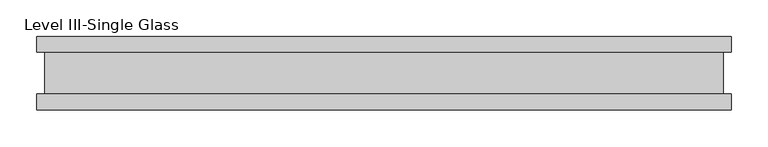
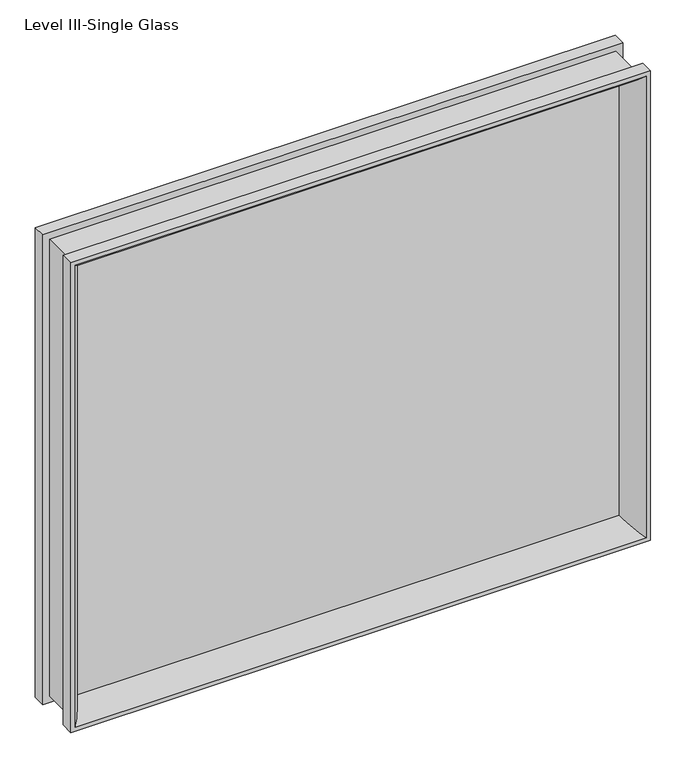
"""IFC4 building model written with IfcOpenShell, lengths in millimetres: proxy geometry, Panel-Fascia-Teknion-Altos-Single_Glass : Level III-Single Glass."""

from ifc_helpers import new_model, si_unit, frame, origin, place, context, project, spatial, polyline, ellipse_curve, outline, extrude, source, transform, mapped, element, save
from ifc_brep_helpers import plane_surface, cylinder_surface, advanced_brep


def level_iii_single_glass_caffbde7(model_context):
    return source(origin(), model_context, "Body", "SolidModel", [
        advanced_brep(
        [(447.4829676, -5.0827449, 787.2123332), (447.4829676, -5.0827449, 28.1276668), (465.4378179, -50.0558594, 10.1728164), (465.4378179, -50.0558594, 805.1671836), (457.9731586, 5.0827449, 797.7025243), (457.9731586, 5.0827449, 17.6374757), (457.9731586, -5.0827449, 17.6374757), (457.9731586, -5.0827449, 797.7025243), (465.4378179, 50.0558594, 805.1671836), (465.4378179, 50.0558594, 10.1728164), (447.4829676, 5.0827449, 28.1276668), (447.4829676, 5.0827449, 787.2123332), (472.4356344, 28.8801202, 812.165), (472.4356344, 28.8801202, 3.175), (472.4356344, 50.0558594, 3.175), (472.4356344, 50.0558594, 812.165), (461.6106344, -28.2698798, 801.3400001), (461.6106344, -28.2698798, 13.9999999), (461.6106344, 28.8801202, 13.9999999), (461.6106344, 28.8801202, 801.3400001), (472.4356344, -50.0558594, 812.165), (472.4356344, -50.0558594, 3.175), (472.4356344, -28.2698798, 3.175), (472.4356344, -28.2698798, 812.165), (-447.4829676, -5.0827449, 28.1276668), (-465.4378179, -50.0558594, 10.1728164), (-457.9731586, 5.0827449, 17.6374757), (-457.9731586, -5.0827449, 17.6374757), (-465.4378179, 50.0558594, 10.1728164), (-447.4829676, 5.0827449, 28.1276668), (-472.4356344, 28.8801202, 3.175), (-472.4356344, 50.0558594, 3.175), (-461.6106344, -28.2698798, 13.9999999), (-461.6106344, 28.8801202, 13.9999999), (-472.4356344, -50.0558594, 3.175), (-472.4356344, -28.2698798, 3.175), (-447.4829676, -5.0827449, 787.2123332), (-465.4378179, -50.0558594, 805.1671836), (-457.9731586, 5.0827449, 797.7025243), (-457.9731586, -5.0827449, 797.7025243), (-465.4378179, 50.0558594, 805.1671836), (-447.4829676, 5.0827449, 787.2123332), (-472.4356344, 28.8801202, 812.165), (-472.4356344, 50.0558594, 812.165), (-461.6106344, -28.2698798, 801.3400001), (-461.6106344, 28.8801202, 801.3400001), (-472.4356344, -50.0558594, 812.165), (-472.4356344, -28.2698798, 812.165)],
        [
            (0, 1),
            (1, 2, ellipse_curve(frame((499.5692049, -10.3587469, -23.9585705), z_axis=(0.7071067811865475, 0.0, 0.7071067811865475), x_axis=(-0.7071067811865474, 0.0, 0.7071067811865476)), 74.0379946, 52.352768)),
            (2, 3),
            (3, 0, ellipse_curve(frame((499.5692049, -10.3587469, 839.2985705), z_axis=(0.7071067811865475, 0.0, -0.7071067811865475), x_axis=(0.7071067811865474, 0.0, 0.7071067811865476)), 74.0379946, 52.352768)),
            (4, 5),
            (5, 6),
            (6, 7),
            (7, 4),
            (8, 9),
            (9, 10, ellipse_curve(frame((499.5692049, 10.3587469, -23.9585705), z_axis=(0.7071067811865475, 0.0, 0.7071067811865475), x_axis=(-0.7071067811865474, 0.0, 0.7071067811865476)), 74.0379946, 52.352768)),
            (10, 11),
            (11, 8, ellipse_curve(frame((499.5692049, 10.3587469, 839.2985705), z_axis=(0.7071067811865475, 0.0, -0.7071067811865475), x_axis=(0.7071067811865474, 0.0, 0.7071067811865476)), 74.0379946, 52.352768)),
            (12, 13),
            (13, 14),
            (14, 15),
            (15, 12),
            (16, 17),
            (17, 18),
            (18, 19),
            (19, 16),
            (20, 21),
            (21, 22),
            (22, 23),
            (23, 20),
            (1, 24),
            (24, 25, ellipse_curve(frame((-499.5692049, -10.3587469, -23.9585705), z_axis=(0.7071067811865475, 0.0, -0.7071067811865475), x_axis=(0.7071067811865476, 0.0, 0.7071067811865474)), 74.0379946, 52.352768)),
            (25, 2),
            (5, 26),
            (26, 27),
            (27, 6),
            (9, 28),
            (28, 29, ellipse_curve(frame((-499.5692049, 10.3587469, -23.9585705), z_axis=(0.7071067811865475, 0.0, -0.7071067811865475), x_axis=(0.7071067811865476, 0.0, 0.7071067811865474)), 74.0379946, 52.352768)),
            (29, 10),
            (13, 30),
            (30, 31),
            (31, 14),
            (17, 32),
            (32, 33),
            (33, 18),
            (21, 34),
            (34, 35),
            (35, 22),
            (24, 36),
            (36, 37, ellipse_curve(frame((-499.5692049, -10.3587469, 839.2985705), z_axis=(-0.7071067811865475, 0.0, -0.7071067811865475), x_axis=(0.7071067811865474, 0.0, -0.7071067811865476)), 74.0379946, 52.352768)),
            (37, 25),
            (26, 38),
            (38, 39),
            (39, 27),
            (28, 40),
            (40, 41, ellipse_curve(frame((-499.5692049, 10.3587469, 839.2985705), z_axis=(-0.7071067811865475, 0.0, -0.7071067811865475), x_axis=(0.7071067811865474, 0.0, -0.7071067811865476)), 74.0379946, 52.352768)),
            (41, 29),
            (30, 42),
            (42, 43),
            (43, 31),
            (32, 44),
            (44, 45),
            (45, 33),
            (34, 46),
            (46, 47),
            (47, 35),
            (20, 46),
            (37, 3),
            (36, 0),
            (39, 7),
            (38, 4),
            (41, 11),
            (40, 8),
            (43, 15),
            (42, 12),
            (45, 19),
            (44, 16),
            (47, 23),
        ],
        [
            cylinder_surface(frame((499.5692049, -10.3587469, 812.165), z_axis=(0.0, 0.0, 1.0), x_axis=(1.0, 0.0, 0.0)), 52.352768),
            plane_surface(frame((457.9731586, -5.0827449, 797.7025243), z_axis=(-1.0, 0.0, 0.0), x_axis=(0.0, 0.0, -1.0))),
            cylinder_surface(frame((499.5692049, 10.3587469, 812.165), z_axis=(0.0, 0.0, 1.0), x_axis=(1.0, 0.0, 0.0)), 52.352768),
            plane_surface(frame((472.4356344, 50.0558594, 812.165), z_axis=(1.0, 0.0, 0.0), x_axis=(0.0, 0.0, -1.0))),
            plane_surface(frame((461.6106344, 28.8801202, 801.3400001), z_axis=(1.0, 0.0, 0.0), x_axis=(0.0, 0.0, -1.0))),
            plane_surface(frame((472.4356344, -28.2698798, 812.165), z_axis=(1.0, 0.0, 0.0), x_axis=(0.0, 0.0, -1.0))),
            cylinder_surface(frame((472.4356344, -10.3587469, -23.9585705), z_axis=(1.0, 0.0, 0.0), x_axis=(0.0, 0.0, -1.0)), 52.352768),
            plane_surface(frame((457.9731586, -5.0827449, 17.6374757), z_axis=(0.0, 0.0, 1.0), x_axis=(-1.0, 0.0, 0.0))),
            cylinder_surface(frame((472.4356344, 10.3587469, -23.9585705), z_axis=(1.0, 0.0, 0.0), x_axis=(0.0, 0.0, -1.0)), 52.352768),
            plane_surface(frame((472.4356344, 50.0558594, 3.175), z_axis=(0.0, 0.0, -1.0), x_axis=(-1.0, 0.0, 0.0))),
            plane_surface(frame((461.6106344, 28.8801202, 13.9999999), z_axis=(0.0, 0.0, -1.0), x_axis=(-1.0, 0.0, 0.0))),
            plane_surface(frame((472.4356344, -28.2698798, 3.175), z_axis=(0.0, 0.0, -1.0), x_axis=(-1.0, 0.0, 0.0))),
            cylinder_surface(frame((-499.5692049, -10.3587469, 3.175), z_axis=(0.0, 0.0, -1.0), x_axis=(-1.0, 0.0, 0.0)), 52.352768),
            plane_surface(frame((-457.9731586, -5.0827449, 17.6374757), z_axis=(1.0, 0.0, 0.0), x_axis=(0.0, 0.0, 1.0))),
            cylinder_surface(frame((-499.5692049, 10.3587469, 3.175), z_axis=(0.0, 0.0, -1.0), x_axis=(-1.0, 0.0, 0.0)), 52.352768),
            plane_surface(frame((-472.4356344, 50.0558594, 3.175), z_axis=(-1.0, 0.0, 0.0), x_axis=(0.0, 0.0, 1.0))),
            plane_surface(frame((-461.6106344, 28.8801202, 13.9999999), z_axis=(-1.0, 0.0, 0.0), x_axis=(0.0, 0.0, 1.0))),
            plane_surface(frame((-472.4356344, -28.2698798, 3.175), z_axis=(-1.0, 0.0, 0.0), x_axis=(0.0, 0.0, 1.0))),
            plane_surface(frame((-472.4356344, -50.0558594, 812.165), z_axis=(0.0, -1.0, 0.0), x_axis=(1.0, 0.0, 0.0))),
            cylinder_surface(frame((-472.4356344, -10.3587469, 839.2985705), z_axis=(-1.0, 0.0, 0.0), x_axis=(0.0, 0.0, 1.0)), 52.352768),
            plane_surface(frame((-447.4829676, -5.0827449, 787.2123332), z_axis=(0.0, 1.0, 0.0), x_axis=(1.0, 0.0, 0.0))),
            plane_surface(frame((-457.9731586, -5.0827449, 797.7025243), z_axis=(0.0, 0.0, -1.0), x_axis=(1.0, 0.0, 0.0))),
            plane_surface(frame((-457.9731586, 5.0827449, 797.7025243), z_axis=(0.0, -1.0, 0.0), x_axis=(1.0, 0.0, 0.0))),
            cylinder_surface(frame((-472.4356344, 10.3587469, 839.2985705), z_axis=(-1.0, 0.0, 0.0), x_axis=(0.0, 0.0, 1.0)), 52.352768),
            plane_surface(frame((-465.4378179, 50.0558594, 805.1671836), z_axis=(0.0, 1.0, 0.0), x_axis=(1.0, 0.0, 0.0))),
            plane_surface(frame((-472.4356344, 50.0558594, 812.165), z_axis=(0.0, 0.0, 1.0), x_axis=(1.0, 0.0, 0.0))),
            plane_surface(frame((-472.4356344, 28.8801202, 812.165), z_axis=(0.0, -1.0, 0.0), x_axis=(1.0, 0.0, 0.0))),
            plane_surface(frame((-461.6106344, 28.8801202, 801.3400001), z_axis=(0.0, 0.0, 1.0), x_axis=(1.0, 0.0, 0.0))),
            plane_surface(frame((-461.6106344, -28.2698798, 801.3400001), z_axis=(0.0, 1.0, 0.0), x_axis=(1.0, 0.0, 0.0))),
            plane_surface(frame((-472.4356344, -28.2698798, 812.165), z_axis=(0.0, 0.0, 1.0), x_axis=(1.0, 0.0, 0.0))),
        ],
        [
            (0, [[1, 2, 3, 4]]),
            (1, [[5, 6, 7, 8]]),
            (2, [[9, 10, 11, 12]]),
            (3, [[13, 14, 15, 16]]),
            (4, [[17, 18, 19, 20]]),
            (5, [[21, 22, 23, 24]]),
            (6, [[25, 26, 27, -2]]),
            (7, [[28, 29, 30, -6]]),
            (8, [[31, 32, 33, -10]]),
            (9, [[34, 35, 36, -14]]),
            (10, [[37, 38, 39, -18]]),
            (11, [[40, 41, 42, -22]]),
            (12, [[43, 44, 45, -26]]),
            (13, [[46, 47, 48, -29]]),
            (14, [[49, 50, 51, -32]]),
            (15, [[52, 53, 54, -35]]),
            (16, [[55, 56, 57, -38]]),
            (17, [[58, 59, 60, -41]]),
            (18, [[-21, 61, -58, -40], [-3, -27, -45, 62]]),
            (19, [[63, -4, -62, -44]]),
            (20, [[-7, -30, -48, 64], [-1, -63, -43, -25]]),
            (21, [[65, -8, -64, -47]]),
            (22, [[-5, -65, -46, -28], [-11, -33, -51, 66]]),
            (23, [[67, -12, -66, -50]]),
            (24, [[-15, -36, -54, 68], [-9, -67, -49, -31]]),
            (25, [[69, -16, -68, -53]]),
            (26, [[-13, -69, -52, -34], [-19, -39, -57, 70]]),
            (27, [[71, -20, -70, -56]]),
            (28, [[-23, -42, -60, 72], [-17, -71, -55, -37]]),
            (29, [[-61, -24, -72, -59]]),
        ],
    ),
        extrude(outline(polyline([(457.9731586, -2.9765625), (-457.9731586, -2.9765625), (-457.9731586, 2.9765625), (457.9731586, 2.9765625), (457.9731586, -2.9765625)])), frame((0.0, 0.0, 17.6374757), z_axis=(0.0, 0.0, 1.0), x_axis=(1.0, 0.0, 0.0)), (0.0, 0.0, 1.0), 780.0650485),
    ])


if __name__ == "__main__":
    model = new_model("IFC4")
    model_context = context("Model", 3, world=origin())
    ifc_project = project(units=[si_unit("LENGTHUNIT", "METRE", prefix="MILLI")], contexts=[model_context])
    site = spatial("IfcSite", under=ifc_project)
    building = spatial("IfcBuilding", under=site)
    placement = place(None, origin())
    level_iii_single_glass_shape = level_iii_single_glass_caffbde7(model_context)
    element("IfcBuildingElementProxy", 1, Name="Panel-Fascia-Teknion-Altos-Single_Glass : Level III-Single Glass", ObjectType="Panel-Fascia-Teknion-Altos-Single_Glass : Level III-Single Glass", at=placement, inside=building, context=model_context, shape_type="MappedRepresentation", body=[
        mapped(level_iii_single_glass_shape, transform((0.0, 0.0, 0.0), x_axis=(1.0, 0.0, 0.0), y_axis=(0.0, 1.0, 0.0), z_axis=(0.0, 0.0, 1.0))),
    ])
    save(model, "model.ifc")
